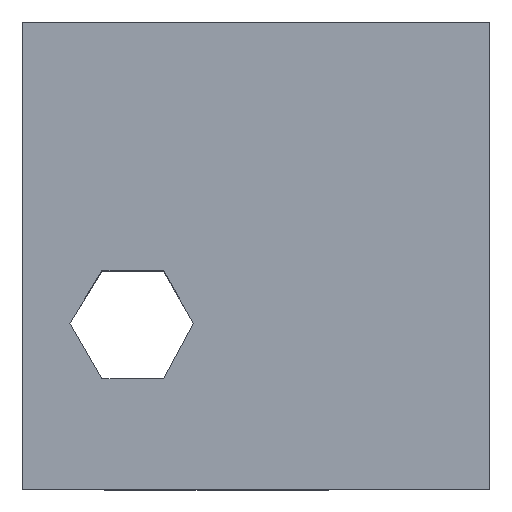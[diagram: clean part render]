
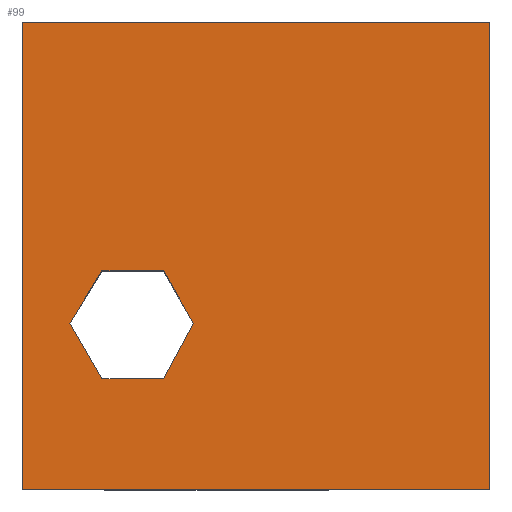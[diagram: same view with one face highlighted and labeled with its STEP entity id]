
A CAD part, top view. The second image highlights one B-rep face of the part: STEP entity #99.
In plain terms, the highlighted planar face has unit normal (0, 0, 1).
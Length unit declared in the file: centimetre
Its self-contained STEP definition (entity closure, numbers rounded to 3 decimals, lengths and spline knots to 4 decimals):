
#8 = VERTEX_POINT ( 'NONE', #485 ) ;
#54 = VERTEX_POINT ( 'NONE', #831 ) ;
#60 = DIRECTION ( 'NONE',  ( -0.472, -0.882, 0. ) ) ;
#81 = LINE ( 'NONE', #1122, #860 ) ;
#99 = ADVANCED_FACE ( 'NONE', ( #741, #1094 ), #151, .T. ) ;
#103 = CARTESIAN_POINT ( 'NONE',  ( 101.5565, 354.9531, 1000. ) ) ;
#104 = CARTESIAN_POINT ( 'NONE',  ( 0., 0., 1000. ) ) ;
#114 = EDGE_CURVE ( 'NONE', #336, #203, #81, .T. ) ;
#122 = LINE ( 'NONE', #806, #214 ) ;
#128 = CARTESIAN_POINT ( 'NONE',  ( 170.1621, 467.9711, 1000. ) ) ;
#137 = EDGE_CURVE ( 'NONE', #8, #616, #526, .T. ) ;
#151 = PLANE ( 'NONE',  #571 ) ;
#159 = EDGE_CURVE ( 'NONE', #1127, #336, #122, .T. ) ;
#161 = VERTEX_POINT ( 'NONE', #719 ) ;
#171 = CARTESIAN_POINT ( 'NONE',  ( 170.1621, 467.9711, 1000. ) ) ;
#203 = VERTEX_POINT ( 'NONE', #543 ) ;
#214 = VECTOR ( 'NONE', #538, 100. ) ;
#221 = CARTESIAN_POINT ( 'NONE',  ( 0., 1000., 1000. ) ) ;
#243 = EDGE_CURVE ( 'NONE', #616, #583, #880, .T. ) ;
#270 = CARTESIAN_POINT ( 'NONE',  ( 302.3413, 467.9711, 1000. ) ) ;
#318 = LINE ( 'NONE', #128, #733 ) ;
#324 = VECTOR ( 'NONE', #881, 100. ) ;
#326 = LINE ( 'NONE', #817, #532 ) ;
#336 = VERTEX_POINT ( 'NONE', #104 ) ;
#345 = EDGE_CURVE ( 'NONE', #794, #1127, #1082, .T. ) ;
#358 = VECTOR ( 'NONE', #448, 100. ) ;
#361 = EDGE_CURVE ( 'NONE', #203, #794, #738, .T. ) ;
#398 = CARTESIAN_POINT ( 'NONE',  ( 1000., 1000., 1000. ) ) ;
#399 = EDGE_CURVE ( 'NONE', #583, #54, #318, .T. ) ;
#404 = VERTEX_POINT ( 'NONE', #1019 ) ;
#407 = CARTESIAN_POINT ( 'NONE',  ( 0., 0., 1000. ) ) ;
#411 = LINE ( 'NONE', #270, #478 ) ;
#432 = CARTESIAN_POINT ( 'NONE',  ( 101.5565, 354.9531, 1000. ) ) ;
#448 = DIRECTION ( 'NONE',  ( 0.519, 0.855, 0. ) ) ;
#452 = EDGE_CURVE ( 'NONE', #161, #404, #326, .T. ) ;
#459 = ORIENTED_EDGE ( 'NONE', *, *, #159, .T. ) ;
#478 = VECTOR ( 'NONE', #607, 100. ) ;
#485 = CARTESIAN_POINT ( 'NONE',  ( 170.1621, 236.1247, 1000. ) ) ;
#526 = LINE ( 'NONE', #778, #324 ) ;
#530 = ORIENTED_EDGE ( 'NONE', *, *, #137, .T. ) ;
#532 = VECTOR ( 'NONE', #60, 100. ) ;
#538 = DIRECTION ( 'NONE',  ( 0., -1., 0. ) ) ;
#540 = ORIENTED_EDGE ( 'NONE', *, *, #345, .T. ) ;
#543 = CARTESIAN_POINT ( 'NONE',  ( 1000., 0., 1000. ) ) ;
#550 = LINE ( 'NONE', #978, #826 ) ;
#571 = AXIS2_PLACEMENT_3D ( 'NONE', #407, #751, #1108 ) ;
#578 = EDGE_LOOP ( 'NONE', ( #530, #1096, #1005, #1029, #596, #1056 ) ) ;
#583 = VERTEX_POINT ( 'NONE', #171 ) ;
#590 = VECTOR ( 'NONE', #1093, 100. ) ;
#596 = ORIENTED_EDGE ( 'NONE', *, *, #452, .T. ) ;
#607 = DIRECTION ( 'NONE',  ( 0.49, -0.872, 0. ) ) ;
#616 = VERTEX_POINT ( 'NONE', #432 ) ;
#617 = EDGE_CURVE ( 'NONE', #54, #161, #411, .T. ) ;
#665 = EDGE_LOOP ( 'NONE', ( #459, #724, #673, #540 ) ) ;
#673 = ORIENTED_EDGE ( 'NONE', *, *, #361, .T. ) ;
#688 = DIRECTION ( 'NONE',  ( 1., 0., 0. ) ) ;
#708 = DIRECTION ( 'NONE',  ( -1., 0., 0. ) ) ;
#719 = CARTESIAN_POINT ( 'NONE',  ( 365.9149, 354.9531, 1000. ) ) ;
#724 = ORIENTED_EDGE ( 'NONE', *, *, #114, .T. ) ;
#728 = CARTESIAN_POINT ( 'NONE',  ( 1000., 1000., 1000. ) ) ;
#733 = VECTOR ( 'NONE', #1004, 100. ) ;
#738 = LINE ( 'NONE', #398, #590 ) ;
#741 = FACE_BOUND ( 'NONE', #578, .T. ) ;
#751 = DIRECTION ( 'NONE',  ( 0., 0., 1. ) ) ;
#778 = CARTESIAN_POINT ( 'NONE',  ( 170.1621, 236.1247, 1000. ) ) ;
#781 = VECTOR ( 'NONE', #708, 100. ) ;
#793 = DIRECTION ( 'NONE',  ( -1., 0., 0. ) ) ;
#794 = VERTEX_POINT ( 'NONE', #728 ) ;
#806 = CARTESIAN_POINT ( 'NONE',  ( 0., 1000., 1000. ) ) ;
#817 = CARTESIAN_POINT ( 'NONE',  ( 365.9149, 354.9531, 1000. ) ) ;
#826 = VECTOR ( 'NONE', #793, 100. ) ;
#831 = CARTESIAN_POINT ( 'NONE',  ( 302.3413, 467.9711, 1000. ) ) ;
#860 = VECTOR ( 'NONE', #688, 100. ) ;
#880 = LINE ( 'NONE', #103, #358 ) ;
#881 = DIRECTION ( 'NONE',  ( -0.5, 0.866, 0. ) ) ;
#978 = CARTESIAN_POINT ( 'NONE',  ( 302.3413, 236.1247, 1000. ) ) ;
#993 = CARTESIAN_POINT ( 'NONE',  ( 0., 1000., 1000. ) ) ;
#1004 = DIRECTION ( 'NONE',  ( 1., 0., 0. ) ) ;
#1005 = ORIENTED_EDGE ( 'NONE', *, *, #399, .T. ) ;
#1019 = CARTESIAN_POINT ( 'NONE',  ( 302.3413, 236.1247, 1000. ) ) ;
#1029 = ORIENTED_EDGE ( 'NONE', *, *, #617, .T. ) ;
#1056 = ORIENTED_EDGE ( 'NONE', *, *, #1099, .T. ) ;
#1082 = LINE ( 'NONE', #993, #781 ) ;
#1093 = DIRECTION ( 'NONE',  ( 0., 1., 0. ) ) ;
#1094 = FACE_OUTER_BOUND ( 'NONE', #665, .T. ) ;
#1096 = ORIENTED_EDGE ( 'NONE', *, *, #243, .T. ) ;
#1099 = EDGE_CURVE ( 'NONE', #404, #8, #550, .T. ) ;
#1108 = DIRECTION ( 'NONE',  ( 1., 0., 0. ) ) ;
#1122 = CARTESIAN_POINT ( 'NONE',  ( 0., 0., 1000. ) ) ;
#1127 = VERTEX_POINT ( 'NONE', #221 ) ;
